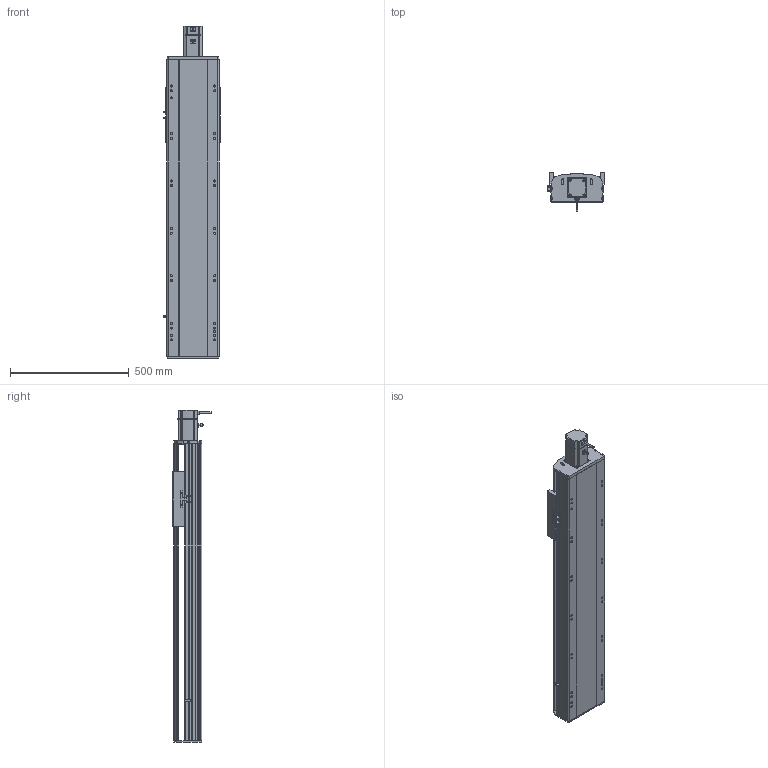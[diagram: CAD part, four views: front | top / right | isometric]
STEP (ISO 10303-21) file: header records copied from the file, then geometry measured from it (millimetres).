
FILE_DESCRIPTION (( 'STEP AP214' ), '1' );
FILE_NAME ('RTH22-XX-850-E-M75-C4.STEP', '2025-10-24T10:46:14', ( 'Microsoft' ), ( 'Microsoft' ), 'SwSTEP 2.0', 'SolidWorks 2018', '' );
FILE_SCHEMA (( 'AUTOMOTIVE_DESIGN' ));
Length unit declared in the file: millimetre
Products named in the file (9): N_OMRON EE-SX672 传感器^RTH22-XX-XX-E-M75-C4; N_RTH22-E-007奻裔^RTH22-XX-XX-E-M75-C4; N_RTH22-GY-013外置感应片^RTH22-XX-XX-E-M75-C4; N_RTH22-E-011菁釱^RTH22-XX-XX-E-M75-C4; N_RTH22-E-008萇儂啣^RTH22-XX-XX-E-M75-C4; N_RTH22-E-004-SFS25賑釱^RTH22-XX-XX-E-M75-C4; N_750W萇儂^RTH22-XX-XX-E-M75-C4; RTH22-XX-850-E-M75-C4; N_RTH22-GY-001耜裔^RTH22-XX-XX-E-M75-C4
Assembly tree (10 placements, depth 2):
  RTH22-XX-850-E-M75-C4
    N_RTH22-E-011菁釱^RTH22-XX-XX-E-M75-C4
    N_RTH22-GY-001耜裔^RTH22-XX-XX-E-M75-C4
    N_RTH22-E-008萇儂啣^RTH22-XX-XX-E-M75-C4
    N_RTH22-E-007奻裔^RTH22-XX-XX-E-M75-C4
    N_RTH22-GY-013外置感应片^RTH22-XX-XX-E-M75-C4
    N_RTH22-E-004-SFS25賑釱^RTH22-XX-XX-E-M75-C4
    N_750W萇儂^RTH22-XX-XX-E-M75-C4
    N_OMRON EE-SX672 传感器^RTH22-XX-XX-E-M75-C4  x3
Bounding box: 238.5 x 160.7 x 1399 mm (x, y, z)
Volume: 17669080.4 mm3; surface area: 1837462.9 mm2
Topology: 10 solids, 10 shells, 1541 faces, 4224 edges, 2729 vertices
Faces by surface type: plane 756, cylinder 448, bspline 279, cone 58
Entity records: 38575 total; most frequent: CARTESIAN_POINT 12089, ORIENTED_EDGE 5424, DIRECTION 5098, EDGE_CURVE 2712, VERTEX_POINT 1765, AXIS2_PLACEMENT_3D 1718, VECTOR 1662, LINE 1662
